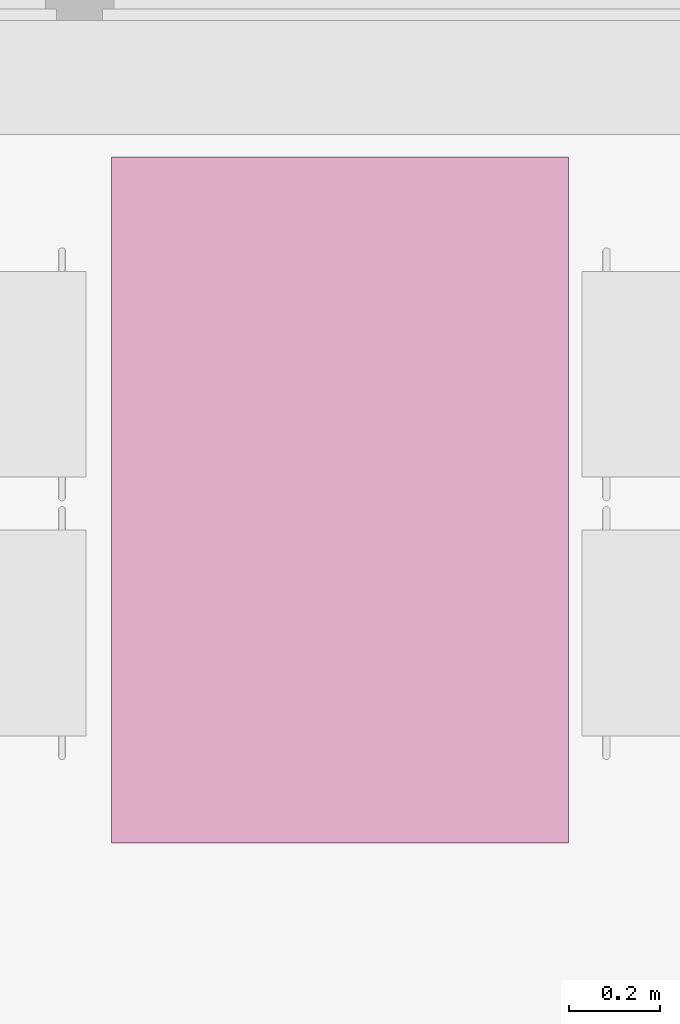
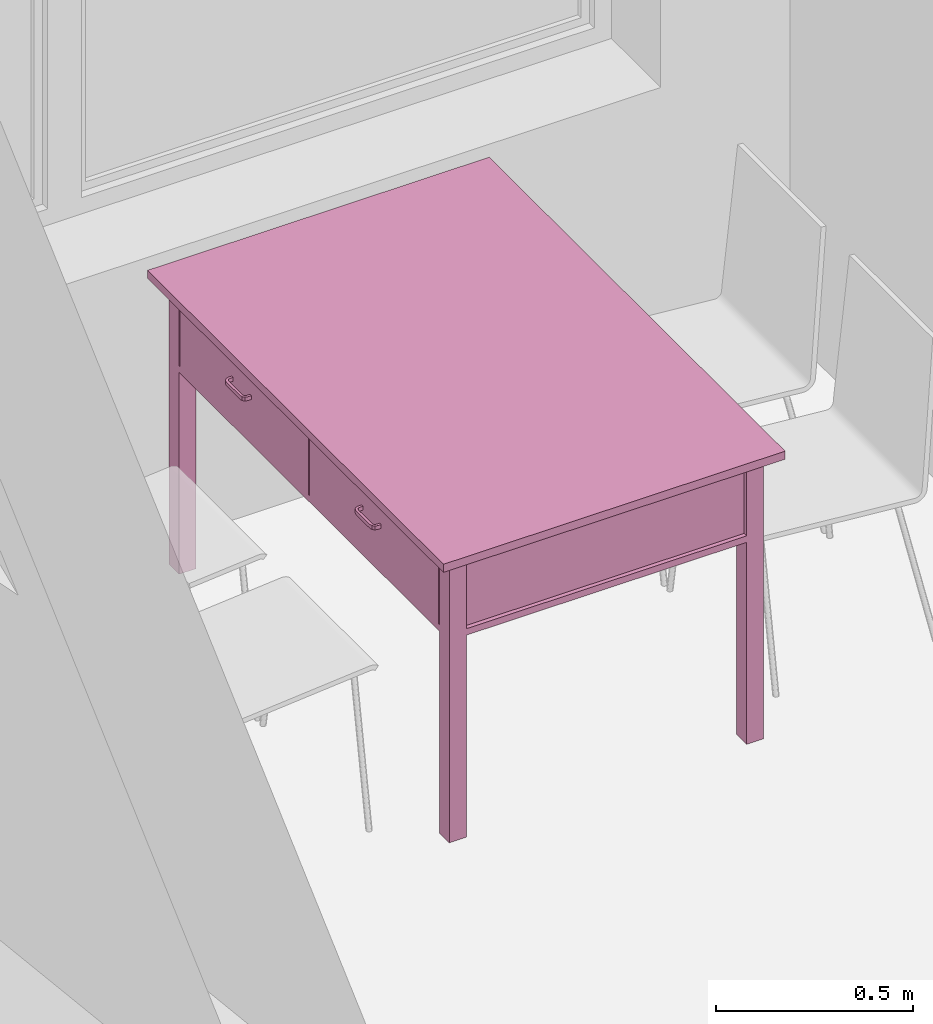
# One storey, part 66 of 165: 1 furnishing.
"""IFC2X3 building model written with IfcOpenShell, lengths in millimetres."""

from ifc_helpers import new_model, entity, si_unit, converted_unit, money_unit, direction, frame, origin_with_axes, place, context, subcontext, project, spatial, faceted_brep, source, transform, mapped, material, material_list, type_object, element, save


model = new_model("IFC2X3")

# Units and contexts
model_context = context("Model", 3, precision=1e-05, world=origin_with_axes(), true_north=direction((0.0, 1.0)))
body_context = subcontext(model_context, "Body", "Model", "MODEL_VIEW")
ifc_project = project(units=[si_unit("LENGTHUNIT", "METRE", prefix="MILLI"), si_unit("AREAUNIT", "SQUARE_METRE"), si_unit("VOLUMEUNIT", "CUBIC_METRE"), converted_unit("PLANEANGLEUNIT", "DEGREE", entity("IfcPlaneAngleMeasure", 0.0174532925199), si_unit("PLANEANGLEUNIT", "RADIAN"), dimensions=[0, 0, 0, 0, 0, 0, 0]), si_unit("SOLIDANGLEUNIT", "STERADIAN"), money_unit("USD"), converted_unit("TIMEUNIT", "Year", entity("IfcTimeMeasure", 31556926.0), si_unit("TIMEUNIT", "SECOND"), dimensions=[0, 0, 0, 0, 0, 0, 0]), si_unit("MASSUNIT", "GRAM"), si_unit("THERMODYNAMICTEMPERATUREUNIT", "DEGREE_CELSIUS"), si_unit("LUMINOUSINTENSITYUNIT", "LUMEN")], contexts=[model_context])

# Site, building, storey
site_placement = place(None, origin_with_axes())
site = spatial("IfcSite", under=ifc_project, at=site_placement, Name="Site", CompositionType="ELEMENT")
building_placement = place(site_placement, origin_with_axes())
building = spatial("IfcBuilding", under=site, at=building_placement, Name="Building", CompositionType="ELEMENT")
storey_placement = place(building_placement, frame((0.0, 0.0, 6300.0), z_axis=(0.0, 0.0, 1.0), x_axis=(1.0, 0.0, 0.0)))
storey = spatial("IfcBuildingStorey", under=building, at=storey_placement, Name="4KORRUS", CompositionType="ELEMENT", Elevation=6300.0)

# Furnishing
ifc_material = material(Name="Background")
ifc_material_list = material_list([ifc_material])
furnishing_element_type = type_object("IfcFurnishingElementType", Name="Rectangular Table 01 19")
shared_shape = source(origin_with_axes(), body_context, "Body", "Brep", [
    faceted_brep([(90.0, 40.0, 0.0), (40.0, 40.0, 0.0), (40.0, 90.0, 0.0), (90.0, 90.0, 0.0), (90.0, 40.0, 875.0), (40.0, 40.0, 875.0), (40.0, 90.0, 875.0), (90.0, 90.0, 875.0)], [[[0, 1, 2, 3]], [[1, 0, 4, 5]], [[2, 1, 5, 6]], [[3, 2, 6, 7]], [[0, 3, 7, 4]], [[5, 4, 7, 6]]]),
    faceted_brep([(1460.0, 40.0, 0.0), (1410.0, 40.0, 0.0), (1410.0, 90.0, 0.0), (1460.0, 90.0, 0.0), (1460.0, 40.0, 875.0), (1410.0, 40.0, 875.0), (1410.0, 90.0, 875.0), (1460.0, 90.0, 875.0)], [[[0, 1, 2, 3]], [[1, 0, 4, 5]], [[2, 1, 5, 6]], [[3, 2, 6, 7]], [[0, 3, 7, 4]], [[5, 4, 7, 6]]]),
    faceted_brep([(90.0, 910.0, 0.0), (40.0, 910.0, 0.0), (40.0, 960.0, 0.0), (90.0, 960.0, 0.0), (90.0, 910.0, 875.0), (40.0, 910.0, 875.0), (40.0, 960.0, 875.0), (90.0, 960.0, 875.0)], [[[0, 1, 2, 3]], [[1, 0, 4, 5]], [[2, 1, 5, 6]], [[3, 2, 6, 7]], [[0, 3, 7, 4]], [[5, 4, 7, 6]]]),
    faceted_brep([(1460.0, 910.0, 0.0), (1410.0, 910.0, 0.0), (1410.0, 960.0, 0.0), (1460.0, 960.0, 0.0), (1460.0, 910.0, 875.0), (1410.0, 910.0, 875.0), (1410.0, 960.0, 875.0), (1460.0, 960.0, 875.0)], [[[0, 1, 2, 3]], [[1, 0, 4, 5]], [[2, 1, 5, 6]], [[3, 2, 6, 7]], [[0, 3, 7, 4]], [[5, 4, 7, 6]]]),
    faceted_brep([(1460.0, 40.0, 625.0), (40.0, 40.0, 625.0), (40.0, 960.0, 625.0), (1460.0, 960.0, 625.0), (1460.0, 40.0, 645.0), (40.0, 40.0, 645.0), (40.0, 960.0, 645.0), (1460.0, 960.0, 645.0)], [[[0, 1, 2, 3]], [[1, 0, 4, 5]], [[2, 1, 5, 6]], [[3, 2, 6, 7]], [[0, 3, 7, 4]], [[5, 4, 7, 6]]]),
    faceted_brep([(1410.0, 52.5, 645.0), (90.0, 52.5, 645.0), (90.0, 77.5, 645.0), (1410.0, 77.5, 645.0), (1410.0, 52.5, 895.0), (90.0, 52.5, 895.0), (90.0, 77.5, 895.0), (1410.0, 77.5, 895.0)], [[[0, 1, 2, 3]], [[1, 0, 4, 5]], [[2, 1, 5, 6]], [[3, 2, 6, 7]], [[0, 3, 7, 4]], [[5, 4, 7, 6]]]),
    faceted_brep([(77.5, 90.0, 645.0), (52.5, 90.0, 645.0), (52.5, 910.0, 645.0), (77.5, 910.0, 645.0), (77.5, 90.0, 895.0), (52.5, 90.0, 895.0), (52.5, 910.0, 895.0), (77.5, 910.0, 895.0)], [[[0, 1, 2, 3]], [[1, 0, 4, 5]], [[2, 1, 5, 6]], [[3, 2, 6, 7]], [[0, 3, 7, 4]], [[5, 4, 7, 6]]]),
    faceted_brep([(90.0, 947.5, 645.0), (1410.0, 947.5, 645.0), (1410.0, 922.5, 645.0), (90.0, 922.5, 645.0), (90.0, 947.5, 895.0), (1410.0, 947.5, 895.0), (1410.0, 922.5, 895.0), (90.0, 922.5, 895.0)], [[[0, 1, 2, 3]], [[1, 0, 4, 5]], [[2, 1, 5, 6]], [[3, 2, 6, 7]], [[0, 3, 7, 4]], [[5, 4, 7, 6]]]),
    faceted_brep([(1422.5, 910.0, 645.0), (1447.5, 910.0, 645.0), (1447.5, 90.0, 645.0), (1422.5, 90.0, 645.0), (1422.5, 910.0, 895.0), (1447.5, 910.0, 895.0), (1447.5, 90.0, 895.0), (1422.5, 90.0, 895.0)], [[[0, 1, 2, 3]], [[1, 0, 4, 5]], [[2, 1, 5, 6]], [[3, 2, 6, 7]], [[0, 3, 7, 4]], [[5, 4, 7, 6]]]),
    faceted_brep([(747.5, 40.0, 645.0), (95.0, 40.0, 645.0), (95.0, 60.0, 645.0), (747.5, 60.0, 645.0), (747.5, 40.0, 895.0), (95.0, 40.0, 895.0), (95.0, 60.0, 895.0), (747.5, 60.0, 895.0)], [[[0, 1, 2, 3]], [[1, 0, 4, 5]], [[2, 1, 5, 6]], [[3, 2, 6, 7]], [[0, 3, 7, 4]], [[5, 4, 7, 6]]]),
    faceted_brep([(1405.0, 40.0, 645.0), (752.5, 40.0, 645.0), (752.5, 60.0, 645.0), (1405.0, 60.0, 645.0), (1405.0, 40.0, 895.0), (752.5, 40.0, 895.0), (752.5, 60.0, 895.0), (1405.0, 60.0, 895.0)], [[[0, 1, 2, 3]], [[1, 0, 4, 5]], [[2, 1, 5, 6]], [[3, 2, 6, 7]], [[0, 3, 7, 4]], [[5, 4, 7, 6]]]),
    faceted_brep([(442.75, 22.0, 776.0), (446.75, 23.072, 776.0), (446.75, 23.072, 764.0), (442.75, 22.0, 764.0), (372.75, 22.0, 776.0), (368.75, 23.072, 776.0), (365.822, 26.0, 776.0), (364.75, 30.0, 776.0), (364.75, 40.0, 776.0), (357.75, 40.0, 776.0), (357.75, 30.0, 776.0), (359.76, 22.5, 776.0), (365.25, 17.01, 776.0), (372.75, 15.0, 776.0), (442.75, 15.0, 776.0), (450.25, 17.01, 776.0), (455.74, 22.5, 776.0), (457.75, 30.0, 776.0), (457.75, 40.0, 776.0), (450.75, 40.0, 776.0), (450.75, 30.0, 776.0), (449.678, 26.0, 776.0), (449.678, 26.0, 764.0), (450.75, 30.0, 764.0), (450.75, 40.0, 764.0), (457.75, 40.0, 764.0), (457.75, 30.0, 764.0), (455.74, 22.5, 764.0), (450.25, 17.01, 764.0), (442.75, 15.0, 764.0), (372.75, 15.0, 764.0), (365.25, 17.01, 764.0), (359.76, 22.5, 764.0), (357.75, 30.0, 764.0), (357.75, 40.0, 764.0), (364.75, 40.0, 764.0), (364.75, 30.0, 764.0), (365.822, 26.0, 764.0), (368.75, 23.072, 764.0), (372.75, 22.0, 764.0)], [[[0, 1, 2, 3]], [[0, 4, 5, 6, 7, 8, 9, 10, 11, 12, 13, 14, 15, 16, 17, 18, 19, 20, 21, 1]], [[1, 21, 22, 2]], [[3, 2, 22, 23, 24, 25, 26, 27, 28, 29, 30, 31, 32, 33, 34, 35, 36, 37, 38, 39]], [[4, 0, 3, 39]], [[5, 4, 39, 38]], [[6, 5, 38, 37]], [[7, 6, 37, 36]], [[8, 7, 36, 35]], [[9, 8, 35, 34]], [[10, 9, 34, 33]], [[11, 10, 33, 32]], [[12, 11, 32, 31]], [[13, 12, 31, 30]], [[14, 13, 30, 29]], [[15, 14, 29, 28]], [[16, 15, 28, 27]], [[17, 16, 27, 26]], [[18, 17, 26, 25]], [[19, 18, 25, 24]], [[20, 19, 24, 23]], [[21, 20, 23, 22]]]),
    faceted_brep([(1100.25, 22.0, 776.0), (1104.25, 23.072, 776.0), (1104.25, 23.072, 764.0), (1100.25, 22.0, 764.0), (1030.25, 22.0, 776.0), (1026.25, 23.072, 776.0), (1023.322, 26.0, 776.0), (1022.25, 30.0, 776.0), (1022.25, 40.0, 776.0), (1015.25, 40.0, 776.0), (1015.25, 30.0, 776.0), (1017.26, 22.5, 776.0), (1022.75, 17.01, 776.0), (1030.25, 15.0, 776.0), (1100.25, 15.0, 776.0), (1107.75, 17.01, 776.0), (1113.24, 22.5, 776.0), (1115.25, 30.0, 776.0), (1115.25, 40.0, 776.0), (1108.25, 40.0, 776.0), (1108.25, 30.0, 776.0), (1107.178, 26.0, 776.0), (1107.178, 26.0, 764.0), (1108.25, 30.0, 764.0), (1108.25, 40.0, 764.0), (1115.25, 40.0, 764.0), (1115.25, 30.0, 764.0), (1113.24, 22.5, 764.0), (1107.75, 17.01, 764.0), (1100.25, 15.0, 764.0), (1030.25, 15.0, 764.0), (1022.75, 17.01, 764.0), (1017.26, 22.5, 764.0), (1015.25, 30.0, 764.0), (1015.25, 40.0, 764.0), (1022.25, 40.0, 764.0), (1022.25, 30.0, 764.0), (1023.322, 26.0, 764.0), (1026.25, 23.072, 764.0), (1030.25, 22.0, 764.0)], [[[0, 1, 2, 3]], [[0, 4, 5, 6, 7, 8, 9, 10, 11, 12, 13, 14, 15, 16, 17, 18, 19, 20, 21, 1]], [[1, 21, 22, 2]], [[3, 2, 22, 23, 24, 25, 26, 27, 28, 29, 30, 31, 32, 33, 34, 35, 36, 37, 38, 39]], [[4, 0, 3, 39]], [[5, 4, 39, 38]], [[6, 5, 38, 37]], [[7, 6, 37, 36]], [[8, 7, 36, 35]], [[9, 8, 35, 34]], [[10, 9, 34, 33]], [[11, 10, 33, 32]], [[12, 11, 32, 31]], [[13, 12, 31, 30]], [[14, 13, 30, 29]], [[15, 14, 29, 28]], [[16, 15, 28, 27]], [[17, 16, 27, 26]], [[18, 17, 26, 25]], [[19, 18, 25, 24]], [[20, 19, 24, 23]], [[21, 20, 23, 22]]]),
    faceted_brep([(1500.0, 0.0, 875.0), (0.0, 0.0, 875.0), (0.0, 1000.0, 875.0), (1500.0, 1000.0, 875.0), (1500.0, 0.0, 900.0), (0.0, 0.0, 900.0), (0.0, 1000.0, 900.0), (1500.0, 1000.0, 900.0)], [[[0, 1, 2, 3]], [[1, 0, 4, 5]], [[2, 1, 5, 6]], [[3, 2, 6, 7]], [[0, 3, 7, 4]], [[5, 4, 7, 6]]]),
])
furnishing_placement = place(storey_placement, frame((-50199.5865895, -5189.0312423, 0.0), z_axis=(0.0, 0.0, 1.0), x_axis=(0.0, -1.0, 0.0)))
element("IfcFurnishingElement", 1, at=furnishing_placement, inside=storey, type_object=furnishing_element_type, material=ifc_material_list, Name="FU - 011", context=body_context, shape_type="MappedRepresentation", body=[
    mapped(shared_shape, transform((0.0, 0.0, 0.0))),
])

save(model, "model.ifc")
